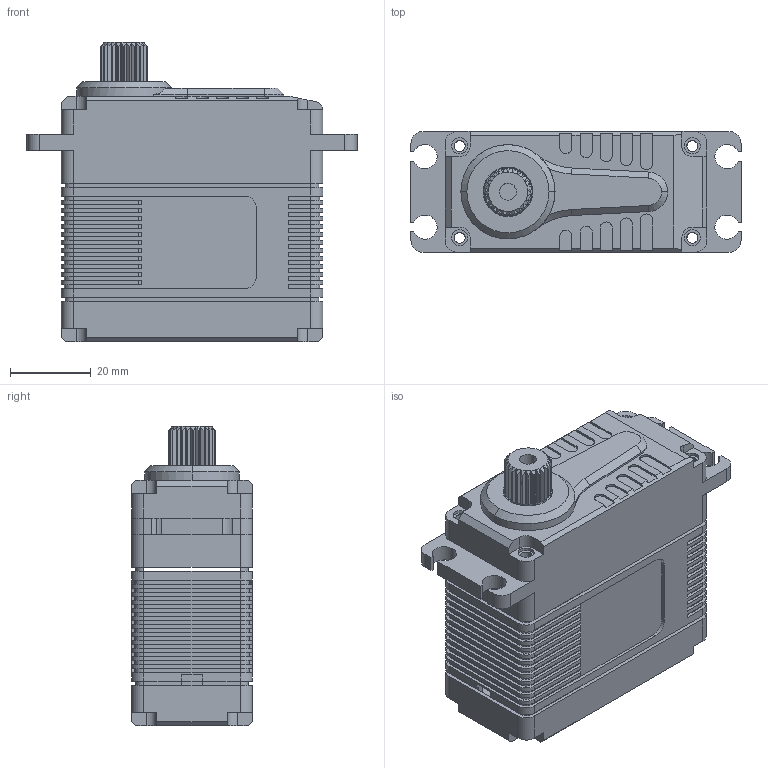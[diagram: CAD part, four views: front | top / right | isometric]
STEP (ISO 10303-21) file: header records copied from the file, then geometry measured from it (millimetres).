
FILE_DESCRIPTION (( 'STEP AP214' ), '1' );
FILE_NAME ('X25-8.4-65_DM.STEP', '2020-08-10T09:07:54', ( '微软用户' ), ( '微软中国' ), 'SwSTEP 2.0', 'SolidWorks 2016', '' );
FILE_SCHEMA (( 'AUTOMOTIVE_DESIGN' ));
Length unit declared in the file: millimetre
Products named in the file (2): X25-8.4-65_DM
Bounding box: 82 x 30 x 74.3 mm (x, y, z)
Surface area: 23473.2 mm2 (no closed solid volume)
Topology: 0 solids, 9 shells, 674 faces, 2056 edges, 1402 vertices
Faces by surface type: plane 373, cylinder 282, cone 19
Entity records: 31373 total; most frequent: CARTESIAN_POINT 5657, ORIENTED_EDGE 3843, DIRECTION 3660, EDGE_CURVE 2056, VERTEX_POINT 1402, LINE 1334, VECTOR 1334, AXIS2_PLACEMENT_3D 1163
